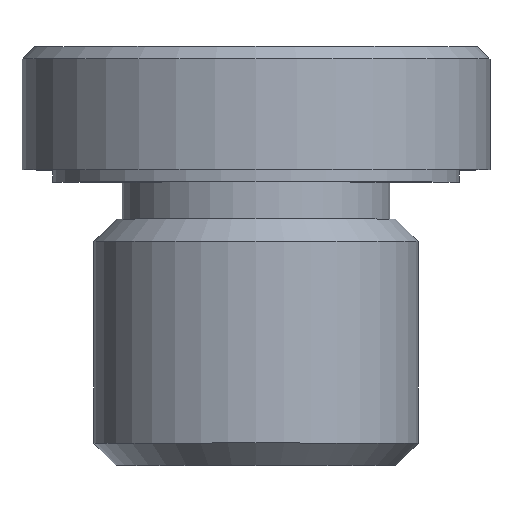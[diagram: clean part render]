
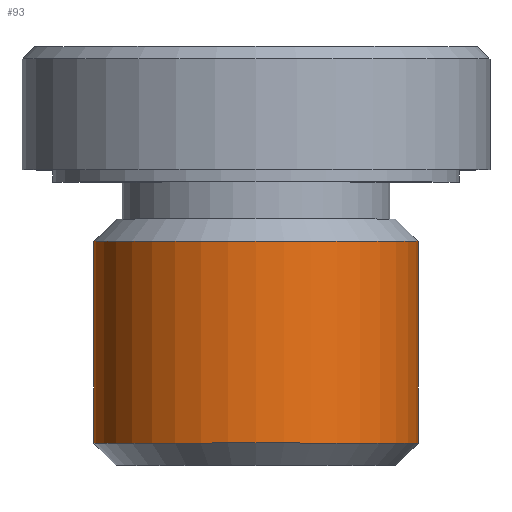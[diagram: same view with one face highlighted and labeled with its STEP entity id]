
A CAD part, top view. The second image highlights one B-rep face of the part: STEP entity #93.
In plain terms, the highlighted cylindrical face has radius 6.579 mm (diameter 13.157 mm), a full revolution.
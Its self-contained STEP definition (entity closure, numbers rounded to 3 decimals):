
#93 = ADVANCED_FACE( '', ( #143, #144 ), #145, .T. );
#143 = FACE_OUTER_BOUND( '', #198, .T. );
#144 = FACE_OUTER_BOUND( '', #199, .T. );
#145 = CYLINDRICAL_SURFACE( '', #200, 6.579 );
#198 = EDGE_LOOP( '', ( #317 ) );
#199 = EDGE_LOOP( '', ( #318 ) );
#200 = AXIS2_PLACEMENT_3D( '', #319, #320, #321 );
#317 = ORIENTED_EDGE( '', *, *, #360, .F. );
#318 = ORIENTED_EDGE( '', *, *, #361, .T. );
#319 = CARTESIAN_POINT( '', ( 0., 0., 0. ) );
#320 = DIRECTION( '', ( 0., 1., 0. ) );
#321 = DIRECTION( '', ( 0., 0., -1. ) );
#360 = EDGE_CURVE( '', #413, #413, #414, .T. );
#361 = EDGE_CURVE( '', #415, #415, #416, .T. );
#413 = VERTEX_POINT( '', #487 );
#414 = CIRCLE( '', #488, 6.579 );
#415 = VERTEX_POINT( '', #489 );
#416 = CIRCLE( '', #490, 6.579 );
#487 = CARTESIAN_POINT( '', ( 0., 0.9, -6.579 ) );
#488 = AXIS2_PLACEMENT_3D( '', #541, #542, #543 );
#489 = CARTESIAN_POINT( '', ( 0., 9.1, -6.579 ) );
#490 = AXIS2_PLACEMENT_3D( '', #544, #545, #546 );
#541 = CARTESIAN_POINT( '', ( 0., 0.9, 0. ) );
#542 = DIRECTION( '', ( 0., -1., 0. ) );
#543 = DIRECTION( '', ( 0., 0., -1. ) );
#544 = CARTESIAN_POINT( '', ( 0., 9.1, 0. ) );
#545 = DIRECTION( '', ( 0., -1., 0. ) );
#546 = DIRECTION( '', ( 0., 0., -1. ) );
